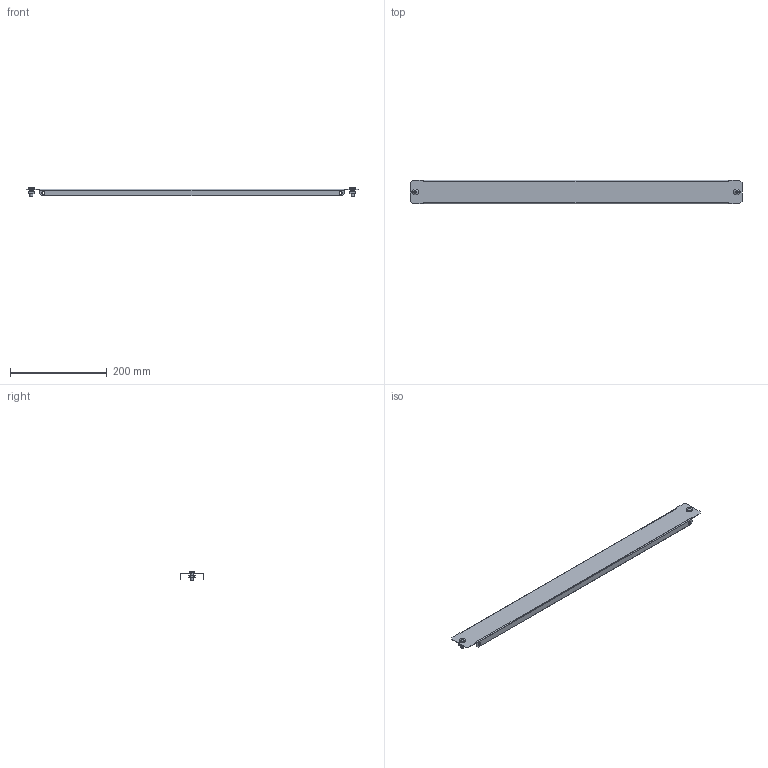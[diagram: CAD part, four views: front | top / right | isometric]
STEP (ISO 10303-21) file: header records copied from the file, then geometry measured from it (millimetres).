
FILE_DESCRIPTION (( 'STEP AP203' ), '1' );
FILE_NAME ('MA1.400.060000.01.00 Ïëàñòðîí Â50 Ø800 EKF AleSta-FP5M800.STEP', '2024-12-02T12:45:58', ( '' ), ( '' ), 'SwSTEP 2.0', 'SolidWorks 2021', '' );
FILE_SCHEMA (( 'CONFIG_CONTROL_DESIGN' ));
Length unit declared in the file: millimetre
Products named in the file (6): pan head cross recess screw_din_DIN EN ISO 7045 - M6 x 16 - Z - 16N; Îáîëî÷êà ãàéêè çàêëàäíîé; MA1.400.060000.01.00 Ïëàñòðîí Â50 Ø800 EKF AleSta-FP5M800; Ãàéêà çàêëàäêàÿ Ì6; Ãàéêà çàêëàäíàÿ; MA1.400.060000.01.01 Ïëàñòðîí Â50 Ø600 EKF AleSta_˜=800
Assembly tree (7 placements, depth 3):
  MA1.400.060000.01.00 Ïëàñòðîí Â50 Ø800 EKF AleSta-FP5M800
    MA1.400.060000.01.01 Ïëàñòðîí Â50 Ø600 EKF AleSta_˜=800
    Ãàéêà çàêëàäíàÿ  x2
      Îáîëî÷êà ãàéêè çàêëàäíîé
      Ãàéêà çàêëàäêàÿ Ì6
    pan head cross recess screw_din_DIN EN ISO 7045 - M6 x 16 - Z - 16N  x2
Bounding box: 686 x 49 x 20.48 mm (x, y, z)
Volume: 51428.6 mm3; surface area: 102924.6 mm2
Topology: 7 solids, 7 shells, 370 faces, 832 edges, 478 vertices
Faces by surface type: plane 242, cylinder 76, bspline 32, cone 14, torus 4, sphere 2
Full cylindrical faces by diameter (mm): 6 x4, 6.5 x4, 7 x2, 12 x2
Entity records: 6996 total; most frequent: CARTESIAN_POINT 1617, DIRECTION 954, ORIENTED_EDGE 952, EDGE_CURVE 476, VECTOR 336, LINE 336, AXIS2_PLACEMENT_3D 309, VERTEX_POINT 284
